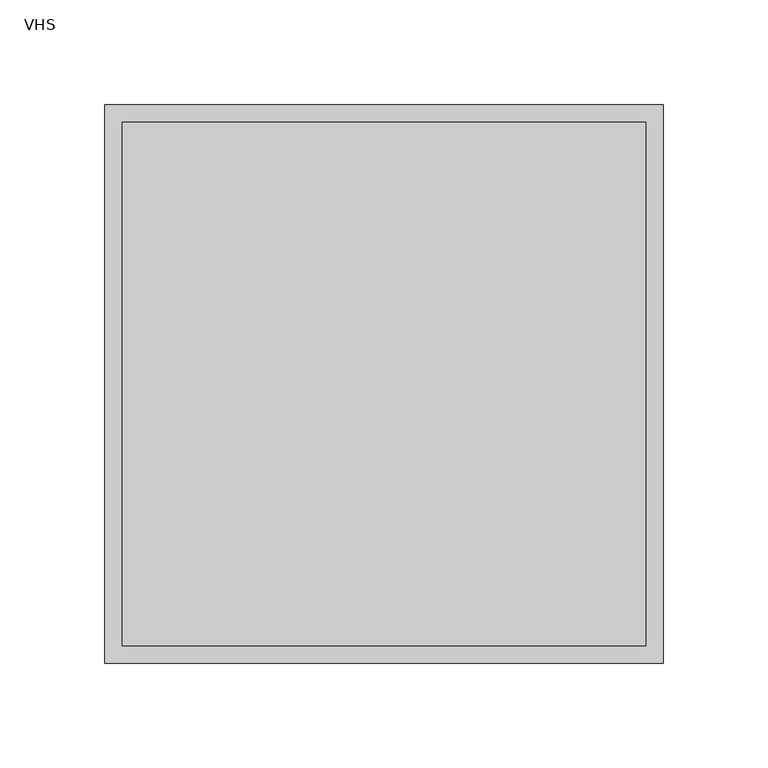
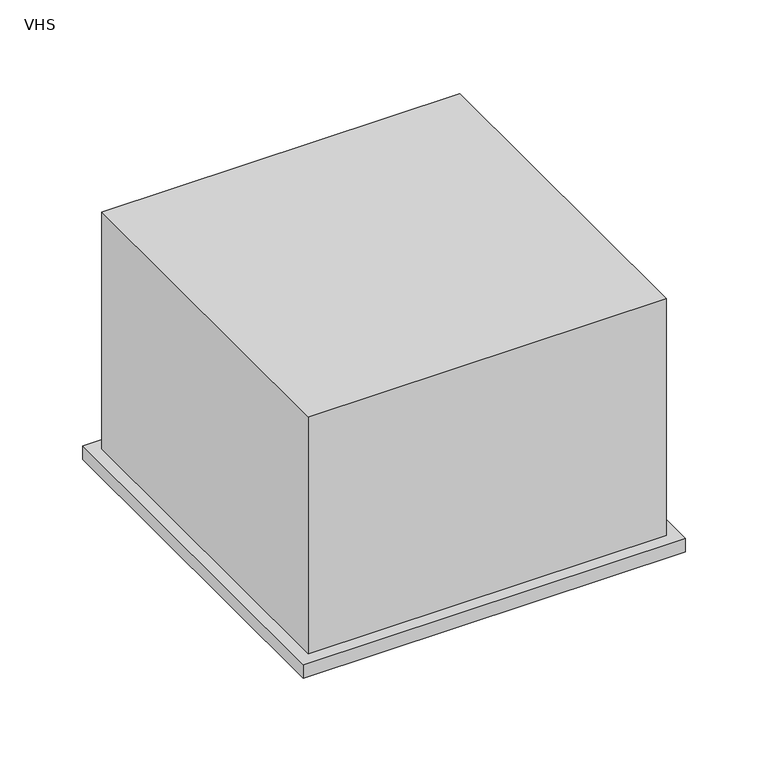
"""IFC4 building model written with IfcOpenShell, lengths in millimetres: air terminal geometry, 031_ユニバーサル形吹出口 : VHS."""

import ifcopenshell
import ifcopenshell.guid

model = None  # the IFC model being written
_history = None  # IfcOwnerHistory: only IFC2X3 demands one
_inside = {}  # id of a spatial element -> (the spatial element, [elements in it])
_under = {}  # id of a project, library or spatial element -> (it, [spatial elements below it])
_declared = {}  # id of a project -> (the project, [libraries it declares])
_typed = {}  # id of a type object -> (the type object, [elements of that type])
_made_of = {}  # id of a material, layer set ... -> (it, [elements and type objects made of it])


def new_model(schema):
    """Start an empty IFC model of exactly this schema.

    Asked for "IFC4X3", IfcOpenShell would pick the latest addendum, in which some entities
    have other attributes; the version numbers below select the first issue.
    IFC2X3 requires an IfcOwnerHistory on every rooted entity: one is made here for all.
    """
    global model, _history
    if schema == "IFC4X3":
        model = ifcopenshell.file(schema_version=(4, 3, 0, 0))
    else:
        model = ifcopenshell.file(schema=schema)
    _inside.clear()
    _under.clear()
    _declared.clear()
    _typed.clear()
    _made_of.clear()
    _history = None
    if model.schema == "IFC2X3":
        org = make("IfcOrganization", Name="unknown")
        user = make(
            "IfcPersonAndOrganization",
            ThePerson=make("IfcPerson", FamilyName="unknown"),
            TheOrganization=org,
        )
        app = make(
            "IfcApplication",
            ApplicationDeveloper=org,
            Version="unknown",
            ApplicationFullName="unknown",
            ApplicationIdentifier="unknown",
        )
        _history = make(
            "IfcOwnerHistory",
            OwningUser=user,
            OwningApplication=app,
            ChangeAction="ADDED",
            CreationDate=0,
        )
    return model


def make(cls, **values):
    """One entity of the class cls with the attributes given. An attribute that is None is left unset."""
    return model.create_entity(
        cls, **{name: value for name, value in values.items() if value is not None}
    )


def rooted(cls, **values):
    """An entity with a GlobalId (a new one), such as an element, a storey or a relation."""
    return make(cls, GlobalId=ifcopenshell.guid.new(), OwnerHistory=_history, **values)


def si_unit(unit_type, name, prefix=None):
    """IfcSIUnit, for example si_unit("LENGTHUNIT", "METRE", prefix="MILLI")."""
    return make("IfcSIUnit", UnitType=unit_type, Prefix=prefix, Name=name)


def assignment(units):
    """IfcUnitAssignment: the units of a project."""
    return None if units is None else make("IfcUnitAssignment", Units=units)


def point(xyz):
    """IfcCartesianPoint."""
    return None if xyz is None else make("IfcCartesianPoint", Coordinates=xyz)


def direction(xyz):
    """IfcDirection."""
    return None if xyz is None else make("IfcDirection", DirectionRatios=xyz)


def frame(location, z_axis=None, x_axis=None):
    """IfcAxis2Placement3D, a coordinate frame: its origin and axes. An axis left out is left unset."""
    return make(
        "IfcAxis2Placement3D",
        Location=point(location),
        Axis=direction(z_axis),
        RefDirection=direction(x_axis),
    )


def origin():
    """The frame at (0, 0, 0) with its axes left unset."""
    return frame((0.0, 0.0, 0.0))


def origin_with_axes():
    """The frame at (0, 0, 0) with the z axis (0, 0, 1) and the x axis (1, 0, 0) written out."""
    return frame((0.0, 0.0, 0.0), z_axis=(0.0, 0.0, 1.0), x_axis=(1.0, 0.0, 0.0))


def place(relative_to, where):
    """IfcLocalPlacement: puts the frame where relative to a parent placement (None: the world)."""
    return make(
        "IfcLocalPlacement", PlacementRelTo=relative_to, RelativePlacement=where
    )


def context(
    kind, dimensions, precision=None, world=None, true_north=None, identifier=None
):
    """IfcGeometricRepresentationContext, for example the 3D "Model" context."""
    return make(
        "IfcGeometricRepresentationContext",
        ContextIdentifier=identifier,
        ContextType=kind,
        CoordinateSpaceDimension=dimensions,
        Precision=precision,
        WorldCoordinateSystem=world,
        TrueNorth=true_north,
    )


def project(units=None, contexts=None):
    """IfcProject with its units and contexts."""
    return rooted(
        "IfcProject",
        Name="project",
        RepresentationContexts=contexts,
        UnitsInContext=assignment(units),
    )


def spatial(cls, under=None, at=None, **own):
    """A site, building, storey or space (cls), placed at a placement, below another one or the project."""
    s = rooted(cls, ObjectPlacement=at, **own)
    if under is not None:
        _under.setdefault(under.id(), (under, []))[1].append(s)
    return s


def polyline(points):
    """IfcPolyline through the points."""
    return make("IfcPolyline", Points=[point(p) for p in points])


def outline(outer, holes=None, kind="AREA"):
    """IfcArbitraryClosedProfileDef: a profile drawn as a closed curve; with holes, ...WithVoids."""
    if holes is None:
        return make("IfcArbitraryClosedProfileDef", ProfileType=kind, OuterCurve=outer)
    return make(
        "IfcArbitraryProfileDefWithVoids",
        ProfileType=kind,
        OuterCurve=outer,
        InnerCurves=holes,
    )


def extrude(swept, where, along, depth):
    """IfcExtrudedAreaSolid: the profile swept, set in the frame where, extruded along a direction by depth."""
    return make(
        "IfcExtrudedAreaSolid",
        SweptArea=swept,
        Position=where,
        ExtrudedDirection=direction(along),
        Depth=depth,
    )


def shape(context_of_items, identifier, shape_type, items):
    """IfcShapeRepresentation: the items that make up one representation, for example the "Body"."""
    return make(
        "IfcShapeRepresentation",
        ContextOfItems=context_of_items,
        RepresentationIdentifier=identifier,
        RepresentationType=shape_type,
        Items=items,
    )


def source(mapping_origin, context_of_items, identifier, shape_type, items):
    """IfcRepresentationMap: a shape defined once, which mapped items show again and again."""
    return make(
        "IfcRepresentationMap",
        MappingOrigin=mapping_origin,
        MappedRepresentation=shape(context_of_items, identifier, shape_type, items),
    )


def transform(
    local_origin,
    x_axis=None,
    y_axis=None,
    z_axis=None,
    scale=None,
    scale2=None,
    scale3=None,
    uniform=True,
):
    """IfcCartesianTransformationOperator3D, or its non-uniform kind. x_axis, y_axis, z_axis: its Axis1, 2, 3."""
    if uniform:
        return make(
            "IfcCartesianTransformationOperator3D",
            Axis1=direction(x_axis),
            Axis2=direction(y_axis),
            LocalOrigin=point(local_origin),
            Scale=scale,
            Axis3=direction(z_axis),
        )
    return make(
        "IfcCartesianTransformationOperator3DnonUniform",
        Axis1=direction(x_axis),
        Axis2=direction(y_axis),
        LocalOrigin=point(local_origin),
        Scale=scale,
        Axis3=direction(z_axis),
        Scale2=scale2,
        Scale3=scale3,
    )


def mapped(mapping_source, mapping_target):
    """IfcMappedItem: shows the shape of a source again, moved by a transform."""
    return make(
        "IfcMappedItem", MappingSource=mapping_source, MappingTarget=mapping_target
    )


def made_of(thing, what):
    """Note that an element or type object is made of a material, layer set ...; save() writes the relation."""
    if what is not None:
        _made_of.setdefault(what.id(), (what, []))[1].append(thing)
    return thing


def element(
    cls,
    number,
    at=None,
    inside=None,
    cuts=None,
    type_object=None,
    material=None,
    context=None,
    identifier="Body",
    shape_type=None,
    held_by="IfcProductDefinitionShape",
    body=None,
    shapes=None,
    **own,
):
    """One element of the class cls, such as IfcWall. Its Tag is "e" and its number.

    at: its placement. inside: the storey or other place that contains it. cuts: it is an
    opening in that element (IfcRelVoidsElement). A single representation is given by context,
    identifier, shape_type and body (its items); several are given by shapes. held_by: the class
    of the entity that holds the representations. save() writes the other relations.
    """
    e = rooted(cls, Tag="e%d" % number, ObjectPlacement=at, **own)
    if body is not None:
        shapes = [shape(context, identifier, shape_type, body)]
    if shapes is not None:
        e.Representation = make(held_by, Representations=shapes)
    if inside is not None:
        _inside.setdefault(inside.id(), (inside, []))[1].append(e)
    if cuts is not None:
        rooted(
            "IfcRelVoidsElement", RelatingBuildingElement=cuts, RelatedOpeningElement=e
        )
    if type_object is not None:
        _typed.setdefault(type_object.id(), (type_object, []))[1].append(e)
    return made_of(e, material)


def aggregate(whole, parts):
    """IfcRelAggregates: a whole, such as a stair, and the parts it consists of."""
    return rooted("IfcRelAggregates", RelatingObject=whole, RelatedObjects=parts)


def save(model, path):
    """Write the relations noted so far, then the file.

    IfcRelAggregates (storeys below a building ...), IfcRelContainedInSpatialStructure (elements
    in a storey), IfcRelDefinesByType, IfcRelAssociatesMaterial and IfcRelDeclares: one each for
    every whole, place, type object, material and project.
    """
    for whole, parts in _under.values():
        aggregate(whole, parts)
    for where, things in _inside.values():
        rooted(
            "IfcRelContainedInSpatialStructure",
            RelatedElements=things,
            RelatingStructure=where,
        )
    for kind, things in _typed.values():
        rooted("IfcRelDefinesByType", RelatedObjects=things, RelatingType=kind)
    for what, things in _made_of.values():
        rooted("IfcRelAssociatesMaterial", RelatedObjects=things, RelatingMaterial=what)
    for by, libraries in _declared.values():
        rooted("IfcRelDeclares", RelatingContext=by, RelatedDefinitions=libraries)
    model.write(path)


def vhs_653558a0(model_context):
    return source(origin(), model_context, "Body", "SweptSolid", [
        extrude(outline(polyline([(125.0, 125.0), (125.0, -125.0), (-125.0, -125.0), (-125.0, 125.0), (125.0, 125.0)])), origin_with_axes(), (0.0, 0.0, 1.0), 175.0),
        extrude(outline(polyline([(133.5, -133.5), (-133.5, -133.5), (-133.5, 133.5), (133.5, 133.5), (133.5, -133.5)]), holes=[polyline([(125.0, -125.0), (125.0, 125.0), (-125.0, 125.0), (-125.0, -125.0), (125.0, -125.0)])]), frame((0.0, 0.0, -10.0), z_axis=(0.0, 0.0, 1.0), x_axis=(1.0, 0.0, 0.0)), (0.0, 0.0, 1.0), 10.0),
    ])


if __name__ == "__main__":
    model = new_model("IFC4")
    model_context = context("Model", 3, world=origin())
    ifc_project = project(units=[si_unit("LENGTHUNIT", "METRE", prefix="MILLI")], contexts=[model_context])
    site = spatial("IfcSite", under=ifc_project)
    building = spatial("IfcBuilding", under=site)
    placement = place(None, origin())
    vhs_shape = vhs_653558a0(model_context)
    element("IfcAirTerminal", 1, ObjectType="031_ユニバーサル形吹出口 : VHS", at=placement, inside=building, context=model_context, shape_type="MappedRepresentation", body=[
        mapped(vhs_shape, transform((0.0, 0.0, 0.0), x_axis=(1.0, 0.0, 0.0), y_axis=(0.0, 1.0, 0.0), z_axis=(0.0, 0.0, 1.0))),
    ])
    save(model, "model.ifc")
